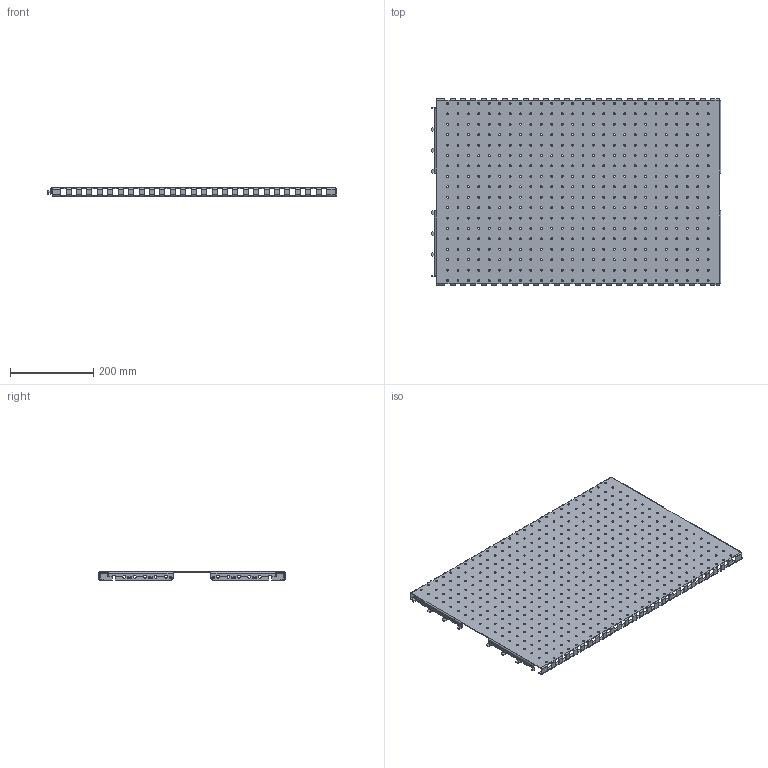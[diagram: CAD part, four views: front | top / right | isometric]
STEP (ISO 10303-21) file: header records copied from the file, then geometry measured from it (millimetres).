
FILE_DESCRIPTION (( 'STEP AP203' ), '1' );
FILE_NAME ('ESB-S-1-OCSBM-450-800_Îãðàæäåíèå ñáîðíîé øèíû áîêîâîå ìîíòàæíîå 450õ800ìì êîðïóñà ESB-pro.step', '2026-07-21T06:38:52', ( '' ), ( '' ), 'SwSTEP 2.0', 'SolidWorks 2020', '' );
FILE_SCHEMA (( 'CONFIG_CONTROL_DESIGN' ));
Length unit declared in the file: millimetre
Products named in the file (1): ESB-S-1-OCSBM-450-800_Îãðàæäåíèå ñáîðíîé øèíû áîêîâîå ìîíòàæíîå 450õ800ìì êîðïóñà ESB-pro
Bounding box: 694.3 x 447 x 20 mm (x, y, z)
Volume: 650610.6 mm3; surface area: 677050.6 mm2
Topology: 1 solids, 1 shells, 1732 faces, 4874 edges, 3040 vertices
Faces by surface type: cylinder 1224, plane 508
Entity records: 58499 total; most frequent: DIRECTION 10788, ORIENTED_EDGE 9748, CARTESIAN_POINT 9647, EDGE_CURVE 4874, AXIS2_PLACEMENT_3D 4181, VERTEX_POINT 3040, EDGE_LOOP 2688, CIRCLE 2448
